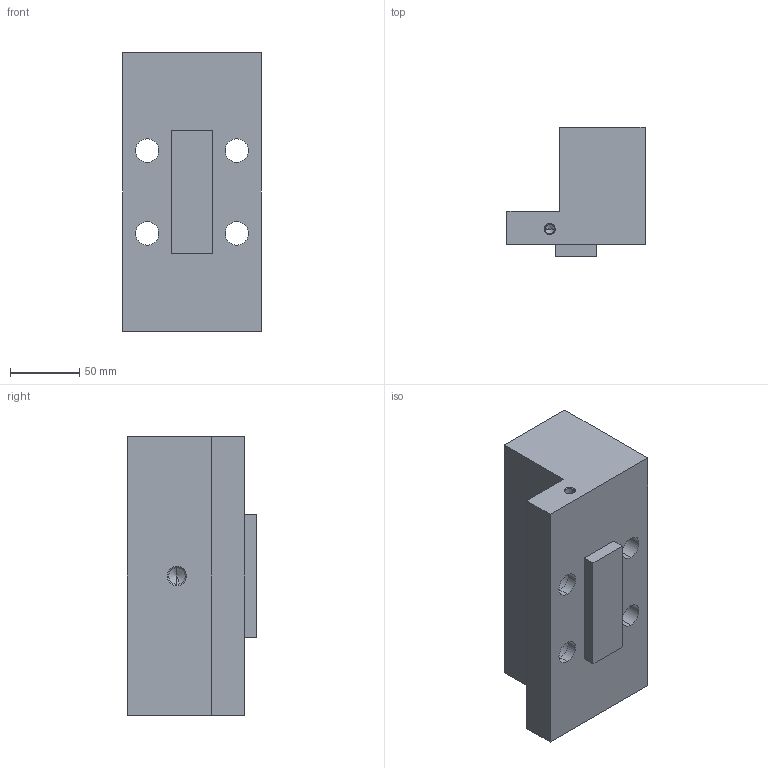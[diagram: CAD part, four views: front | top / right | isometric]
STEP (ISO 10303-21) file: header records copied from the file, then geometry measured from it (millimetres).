
FILE_DESCRIPTION (( 'STEP AP203' ), '1' );
FILE_NAME ('6921294011240.STEP', '2008-12-15T09:10:24', ( ' ' ), ( '' ), 'SwSTEP 2.0', 'SolidWorks 2008', '' );
FILE_SCHEMA (( 'CONFIG_CONTROL_DESIGN' ));
Length unit declared in the file: millimetre
Products named in the file (2): 6921294011240; 6921294011240_Kundenmodell
Assembly tree (1 placements, depth 2):
  6921294011240
    6921294011240_Kundenmodell
Bounding box: 100 x 93.9 x 202 mm (x, y, z)
Volume: 1200887 mm3; surface area: 102056.4 mm2
Topology: 1 solids, 1 shells, 45 faces, 106 edges, 66 vertices
Faces by surface type: cylinder 20, plane 17, cone 8
Entity records: 1484 total; most frequent: DIRECTION 244, CARTESIAN_POINT 217, ORIENTED_EDGE 204, EDGE_CURVE 102, AXIS2_PLACEMENT_3D 93, VERTEX_POINT 66, EDGE_LOOP 60, VECTOR 58
